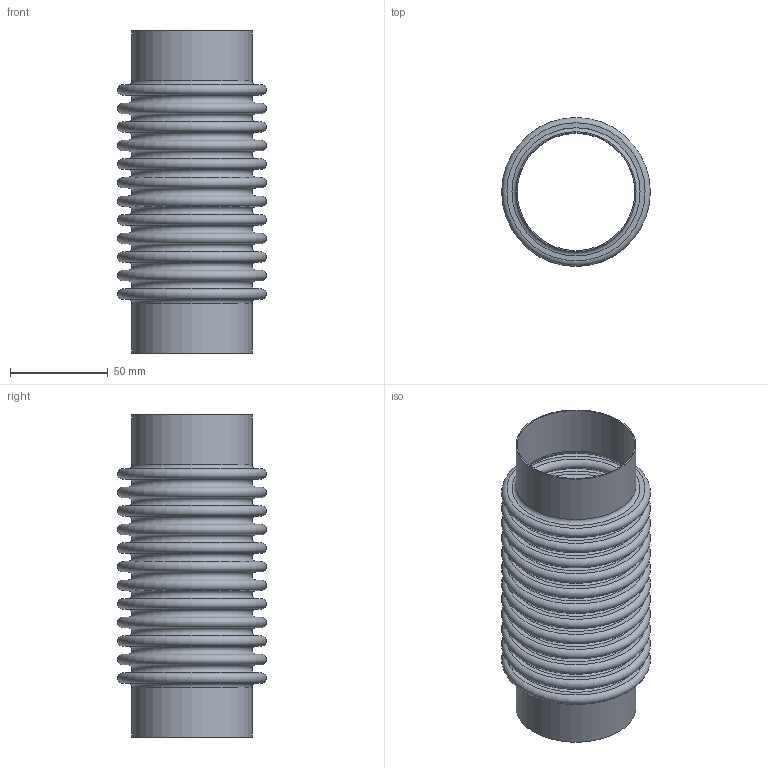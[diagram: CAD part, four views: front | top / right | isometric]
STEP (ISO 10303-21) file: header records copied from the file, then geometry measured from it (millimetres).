
FILE_DESCRIPTION(/* description */ ('STOCK BELLOWS: U.S-2-12-300L, 2.375 I.D., 3.000 O.D., 1 PLY, 24 GA (0.024 THICK), 12 CONS., 0.375 PITCH, 1.000 TANGENT. '),/* implementation_level */ '2;1');
FILE_NAME(/* name */ 'STOCK BELLOW - US-2-12-300L.stp',/* time_stamp */ '2026-07-21T13:25:02-05:00',/* author */ ('KennethB'),/* organization */ (''),/* preprocessor_version */ 'ST-DEVELOPER v20.1',/* originating_system */ 'Autodesk Inventor 2026',/* authorisation */ '');
FILE_SCHEMA (('AUTOMOTIVE_DESIGN { 1 0 10303 214 3 1 1 }'));
Length unit declared in the file: inch
Products named in the file (1): STOCK BELLOW - US-2-12-300L
Bounding box: 76.2 x 76.2 x 165.1 mm (x, y, z)
Volume: 37448.8 mm3; surface area: 123563.8 mm2
Topology: 3 solids, 3 shells, 108 faces, 162 edges, 109 vertices
Faces by surface type: plane 54, torus 50, cylinder 4
Full cylindrical faces by diameter (mm): 60.325 x2, 61.544 x2
Entity records: 2550 total; most frequent: DIRECTION 538, CARTESIAN_POINT 380, ORIENTED_EDGE 324, AXIS2_PLACEMENT_3D 267, EDGE_LOOP 162, EDGE_CURVE 162, CIRCLE 158, FACE_OUTER_BOUND 108
